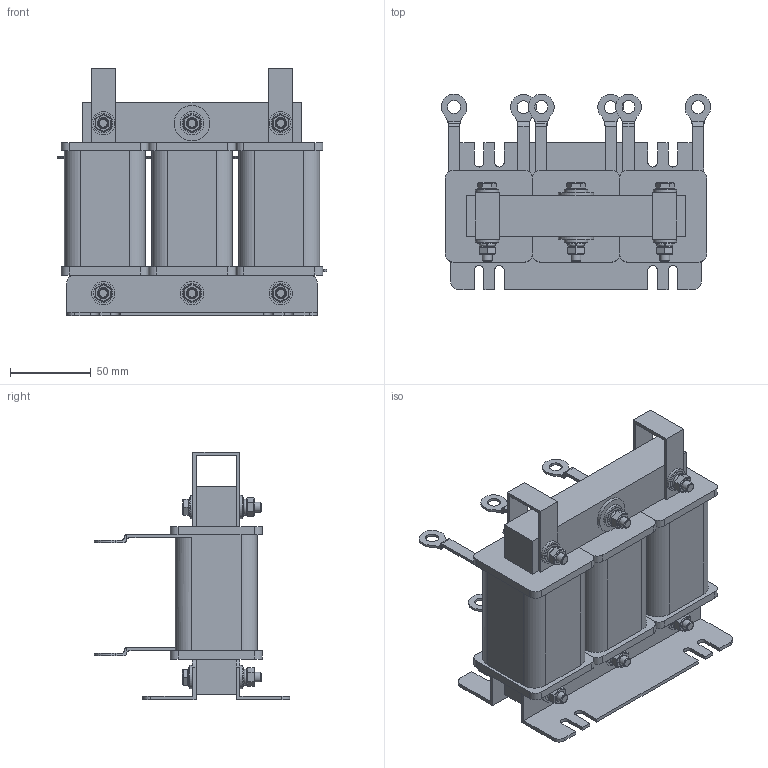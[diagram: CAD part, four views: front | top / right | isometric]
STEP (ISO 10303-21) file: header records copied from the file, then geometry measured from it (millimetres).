
FILE_DESCRIPTION(('STEP AP203'), '1');
FILE_NAME('栖闉罻 _ ISF-18.5_38.5-4', '', ('UNSPECIFIED'), ('UNSPECIFIED'), 'ASCON STEP Converter 1.6', 'ASCON Math Kernel', '');
FILE_SCHEMA(('CONFIG_CONTROL_DESIGN'));
Length unit declared in the file: millimetre
Products named in the file (13): ISF-18.5_38.5-4
Assembly tree (59 placements, depth 2):
  ISF-18.5_38.5-4
    ISF-18.5_38.5-4
    ISF-18.5_38.5-4  x2
    ISF-18.5_38.5-4  x6
    ISF-18.5_38.5-4  x3
    ISF-18.5_38.5-4
    ISF-18.5_38.5-4  x2
    ISF-18.5_38.5-4  x2
    ISF-18.5_38.5-4  x12
    ISF-18.5_38.5-4  x12
    ISF-18.5_38.5-4  x6
    ISF-18.5_38.5-4  x6
    ISF-18.5_38.5-4  x6
Bounding box: 166.99 x 120.97 x 153.2 mm (x, y, z)
Volume: 842049.4 mm3; surface area: 197485.9 mm2
Topology: 59 solids, 59 shells, 670 faces, 1476 edges, 930 vertices
Faces by surface type: plane 466, cylinder 180, cone 18, torus 6
Full cylindrical faces by diameter (mm): 6 x54, 8 x6, 12 x12, 14.5 x12, 22 x2
Entity records: 7247 total; most frequent: CARTESIAN_POINT 1460, DIRECTION 922, ORIENTED_EDGE 754, EDGE_CURVE 377, AXIS2_PLACEMENT_3D 331, LINE 260, VECTOR 260, VERTEX_POINT 259
